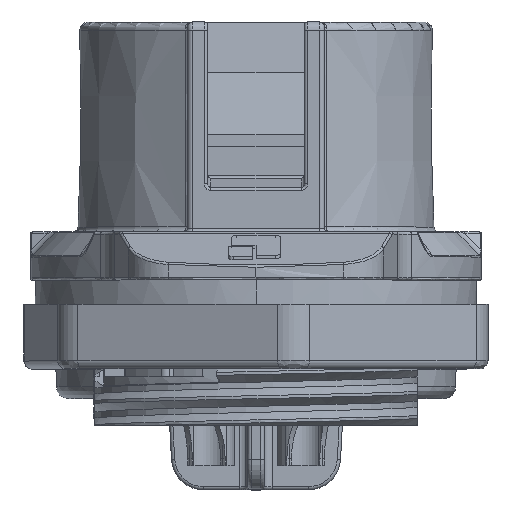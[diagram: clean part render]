
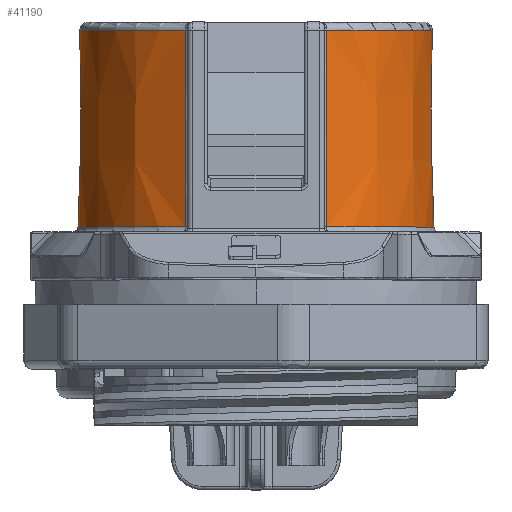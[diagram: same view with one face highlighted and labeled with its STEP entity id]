
A CAD part, top view. The second image highlights one B-rep face of the part: STEP entity #41190.
In plain terms, the highlighted conical face has half-angle 0.5 degrees and reference radius 11.05 mm.
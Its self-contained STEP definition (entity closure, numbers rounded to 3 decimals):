
#126 = ORIENTED_EDGE ( 'NONE', *, *, #41490, .T. ) ;
#1338 = ORIENTED_EDGE ( 'NONE', *, *, #9668, .T. ) ;
#2988 = CARTESIAN_POINT ( 'NONE',  ( 4.371, 32.697, 10.146 ) ) ;
#3016 = CARTESIAN_POINT ( 'NONE',  ( 0., 32.697, 0. ) ) ;
#3199 = CARTESIAN_POINT ( 'NONE',  ( 4.37, 42.904, 10.049 ) ) ;
#3434 = CARTESIAN_POINT ( 'NONE',  ( 4.371, 36.505, 10.11 ) ) ;
#3516 = EDGE_LOOP ( 'NONE', ( #1338, #126, #39765, #43766 ) ) ;
#3740 = CARTESIAN_POINT ( 'NONE',  ( -4.371, 32.697, 10.146 ) ) ;
#4197 = CARTESIAN_POINT ( 'NONE',  ( -4.371, 33.631, 10.137 ) ) ;
#4426 = CARTESIAN_POINT ( 'NONE',  ( 4.37, 44.904, 10.03 ) ) ;
#7447 = CARTESIAN_POINT ( 'NONE',  ( 4.371, 32.697, 10.146 ) ) ;
#7845 = CARTESIAN_POINT ( 'NONE',  ( 4.37, 44.504, 10.034 ) ) ;
#9240 = CARTESIAN_POINT ( 'NONE',  ( -4.37, 44.904, 10.03 ) ) ;
#9668 = EDGE_CURVE ( 'NONE', #41875, #34146, #24260, .T. ) ;
#12222 = DIRECTION ( 'NONE',  ( 0., 0., -1. ) ) ;
#14097 = CARTESIAN_POINT ( 'NONE',  ( -4.371, 33.097, 10.142 ) ) ;
#15625 = DIRECTION ( 'NONE',  ( 0., -1., 0. ) ) ;
#16476 = CARTESIAN_POINT ( 'NONE',  ( -4.37, 44.904, 10.03 ) ) ;
#17145 = FACE_OUTER_BOUND ( 'NONE', #3516, .T. ) ;
#17326 = EDGE_CURVE ( 'NONE', #18290, #41875, #38791, .T. ) ;
#18290 = VERTEX_POINT ( 'NONE', #4426 ) ;
#18599 = CARTESIAN_POINT ( 'NONE',  ( 4.37, 44.771, 10.031 ) ) ;
#19430 = CARTESIAN_POINT ( 'NONE',  ( 0., 32.4, 0. ) ) ;
#19996 = DIRECTION ( 'NONE',  ( 0., 0., 1. ) ) ;
#23242 = CARTESIAN_POINT ( 'NONE',  ( 4.371, 38.638, 10.09 ) ) ;
#24260 = CIRCLE ( 'NONE', #64832, 11.047 ) ;
#24880 = CARTESIAN_POINT ( 'NONE',  ( -4.371, 34.164, 10.132 ) ) ;
#28014 = EDGE_CURVE ( 'NONE', #54404, #18290, #62124, .T. ) ;
#28347 = CARTESIAN_POINT ( 'NONE',  ( 4.37, 44.638, 10.033 ) ) ;
#29303 = CARTESIAN_POINT ( 'NONE',  ( -4.37, 41.097, 10.066 ) ) ;
#29531 = CARTESIAN_POINT ( 'NONE',  ( -4.37, 38.964, 10.087 ) ) ;
#29962 = CARTESIAN_POINT ( 'NONE',  ( -4.37, 42.366, 10.054 ) ) ;
#33173 = CARTESIAN_POINT ( 'NONE',  ( 4.371, 35.236, 10.122 ) ) ;
#34146 = VERTEX_POINT ( 'NONE', #55484 ) ;
#34608 = CARTESIAN_POINT ( 'NONE',  ( -4.371, 32.964, 10.143 ) ) ;
#38296 = DIRECTION ( 'NONE',  ( 0., 1., 0. ) ) ;
#38493 = CARTESIAN_POINT ( 'NONE',  ( 4.371, 33.967, 10.134 ) ) ;
#38791 = B_SPLINE_CURVE_WITH_KNOTS ( 'NONE', 3,
 ( #63438, #18599, #28347, #7845, #63649, #58779, #3199, #43121, #23242, #3434, #33173, #38493, #2988 ),
 .UNSPECIFIED., .F., .F.,
 ( 4, 3, 3, 3, 4 ),
 ( 0., 0., 0.002, 0.008, 0.012 ),
 .UNSPECIFIED. ) ;
#39609 = B_SPLINE_CURVE_WITH_KNOTS ( 'NONE', 3,
 ( #3740, #65076, #34608, #14097, #4197, #24880, #49602, #65501, #29531, #29303, #29962, #54437, #9240 ),
 .UNSPECIFIED., .F., .F.,
 ( 4, 3, 3, 3, 4 ),
 ( 0., 0., 0.002, 0.008, 0.012 ),
 .UNSPECIFIED. ) ;
#39765 = ORIENTED_EDGE ( 'NONE', *, *, #28014, .T. ) ;
#41190 = ADVANCED_FACE ( 'NONE', ( #17145 ), #55848, .T. ) ;
#41490 = EDGE_CURVE ( 'NONE', #34146, #54404, #39609, .T. ) ;
#41875 = VERTEX_POINT ( 'NONE', #7447 ) ;
#43121 = CARTESIAN_POINT ( 'NONE',  ( 4.37, 40.771, 10.069 ) ) ;
#43766 = ORIENTED_EDGE ( 'NONE', *, *, #17326, .T. ) ;
#49602 = CARTESIAN_POINT ( 'NONE',  ( -4.371, 34.697, 10.127 ) ) ;
#50251 = DIRECTION ( 'NONE',  ( 0., -1., 0. ) ) ;
#54404 = VERTEX_POINT ( 'NONE', #16476 ) ;
#54437 = CARTESIAN_POINT ( 'NONE',  ( -4.37, 43.635, 10.042 ) ) ;
#55484 = CARTESIAN_POINT ( 'NONE',  ( -4.371, 32.697, 10.146 ) ) ;
#55848 = CONICAL_SURFACE ( 'NONE', #56645, 11.05, 0.009 ) ;
#56645 = AXIS2_PLACEMENT_3D ( 'NONE', #19430, #15625, #61084 ) ;
#58779 = CARTESIAN_POINT ( 'NONE',  ( 4.37, 43.438, 10.044 ) ) ;
#61084 = DIRECTION ( 'NONE',  ( 0., 0., 1. ) ) ;
#62124 = CIRCLE ( 'NONE', #64070, 10.941 ) ;
#63438 = CARTESIAN_POINT ( 'NONE',  ( 4.37, 44.904, 10.03 ) ) ;
#63649 = CARTESIAN_POINT ( 'NONE',  ( 4.37, 43.971, 10.039 ) ) ;
#64070 = AXIS2_PLACEMENT_3D ( 'NONE', #64862, #50251, #19996 ) ;
#64832 = AXIS2_PLACEMENT_3D ( 'NONE', #3016, #38296, #12222 ) ;
#64862 = CARTESIAN_POINT ( 'NONE',  ( 0., 44.904, 0. ) ) ;
#65076 = CARTESIAN_POINT ( 'NONE',  ( -4.371, 32.831, 10.145 ) ) ;
#65501 = CARTESIAN_POINT ( 'NONE',  ( -4.371, 36.831, 10.107 ) ) ;
